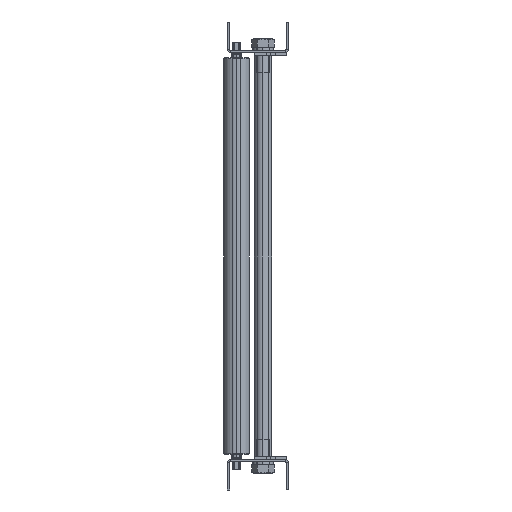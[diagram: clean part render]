
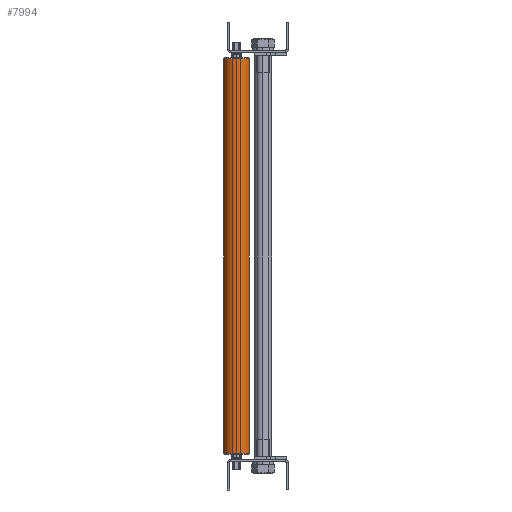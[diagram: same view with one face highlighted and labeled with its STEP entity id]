
A CAD part, left-side view. The second image highlights one B-rep face of the part: STEP entity #7994.
In plain terms, the highlighted cylindrical face has radius 12.7 mm (diameter 25.4 mm), a partial arc.
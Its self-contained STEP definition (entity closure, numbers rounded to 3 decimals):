
#41 = CARTESIAN_POINT ( 'NONE',  ( -1256.99, 214.85, 325.941 ) ) ;
#7267 = CIRCLE ( 'NONE', #71692, 12.7 ) ;
#7994 = ADVANCED_FACE ( 'NONE', ( #49150 ), #18927, .T. ) ;
#10951 = ORIENTED_EDGE ( 'NONE', *, *, #76528, .T. ) ;
#13717 = LINE ( 'NONE', #107036, #18070 ) ;
#15411 = DIRECTION ( 'NONE',  ( 0., 0., -1. ) ) ;
#18070 = VECTOR ( 'NONE', #97576, 1000. ) ;
#18927 = CYLINDRICAL_SURFACE ( 'NONE', #45832, 12.7 ) ;
#20079 = CARTESIAN_POINT ( 'NONE',  ( -1254.873, 202.328, -20.1 ) ) ;
#22712 = DIRECTION ( 'NONE',  ( -0.167, 0.986, 0. ) ) ;
#24526 = EDGE_CURVE ( 'NONE', #98186, #40057, #7267, .T. ) ;
#25605 = ORIENTED_EDGE ( 'NONE', *, *, #102445, .T. ) ;
#38497 = DIRECTION ( 'NONE',  ( -0.167, 0.986, 0. ) ) ;
#40057 = VERTEX_POINT ( 'NONE', #57383 ) ;
#45832 = AXIS2_PLACEMENT_3D ( 'NONE', #41, #104686, #38497 ) ;
#46932 = VERTEX_POINT ( 'NONE', #99031 ) ;
#49150 = FACE_OUTER_BOUND ( 'NONE', #54218, .T. ) ;
#51076 = CARTESIAN_POINT ( 'NONE',  ( -1256.99, 214.85, -408.1 ) ) ;
#54218 = EDGE_LOOP ( 'NONE', ( #25605, #10951, #62576, #58916 ) ) ;
#55702 = CIRCLE ( 'NONE', #73790, 12.7 ) ;
#57383 = CARTESIAN_POINT ( 'NONE',  ( -1259.107, 227.373, -20.1 ) ) ;
#58916 = ORIENTED_EDGE ( 'NONE', *, *, #73067, .F. ) ;
#62576 = ORIENTED_EDGE ( 'NONE', *, *, #24526, .T. ) ;
#71692 = AXIS2_PLACEMENT_3D ( 'NONE', #82897, #15411, #111237 ) ;
#73067 = EDGE_CURVE ( 'NONE', #90663, #40057, #13717, .T. ) ;
#73790 = AXIS2_PLACEMENT_3D ( 'NONE', #51076, #89530, #22712 ) ;
#76528 = EDGE_CURVE ( 'NONE', #46932, #98186, #122343, .T. ) ;
#82897 = CARTESIAN_POINT ( 'NONE',  ( -1256.99, 214.85, -20.1 ) ) ;
#83846 = CARTESIAN_POINT ( 'NONE',  ( -1254.873, 202.328, 325.941 ) ) ;
#89530 = DIRECTION ( 'NONE',  ( 0., 0., 1. ) ) ;
#90663 = VERTEX_POINT ( 'NONE', #122576 ) ;
#97576 = DIRECTION ( 'NONE',  ( 0., 0., 1. ) ) ;
#98186 = VERTEX_POINT ( 'NONE', #20079 ) ;
#99031 = CARTESIAN_POINT ( 'NONE',  ( -1254.873, 202.328, -408.1 ) ) ;
#102445 = EDGE_CURVE ( 'NONE', #90663, #46932, #55702, .T. ) ;
#104686 = DIRECTION ( 'NONE',  ( 0., 0., 1. ) ) ;
#107036 = CARTESIAN_POINT ( 'NONE',  ( -1259.107, 227.373, 325.941 ) ) ;
#107120 = VECTOR ( 'NONE', #121089, 1000. ) ;
#111237 = DIRECTION ( 'NONE',  ( 0.167, -0.986, 0. ) ) ;
#121089 = DIRECTION ( 'NONE',  ( 0., 0., 1. ) ) ;
#122343 = LINE ( 'NONE', #83846, #107120 ) ;
#122576 = CARTESIAN_POINT ( 'NONE',  ( -1259.107, 227.373, -408.1 ) ) ;
